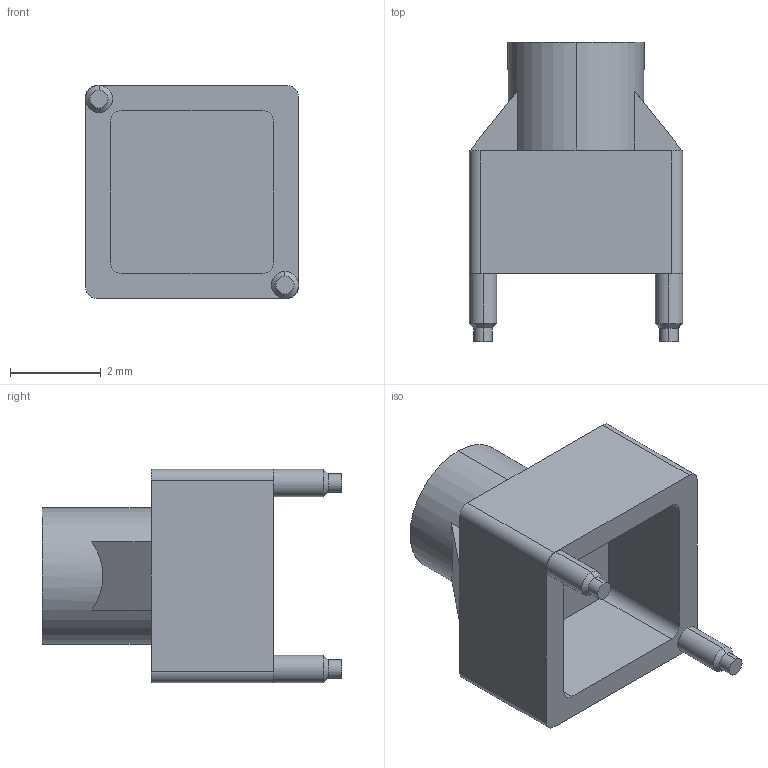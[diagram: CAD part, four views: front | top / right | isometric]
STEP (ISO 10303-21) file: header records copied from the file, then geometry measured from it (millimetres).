
FILE_DESCRIPTION (( 'STEP AP214' ), '1' );
FILE_NAME ('VLP-200-F.STEP', '2017-01-24T18:41:33', ( '' ), ( '' ), 'SwSTEP 2.0', 'SolidWorks 2016', '' );
FILE_SCHEMA (( 'AUTOMOTIVE_DESIGN' ));
Length unit declared in the file: millimetre
Products named in the file (1): VLP-200-F
Bounding box: 4.7 x 6.6 x 4.7 mm (x, y, z)
Volume: 50.4 mm3; surface area: 152.9 mm2
Topology: 1 solids, 1 shells, 45 faces, 108 edges, 66 vertices
Faces by surface type: plane 23, cylinder 18, cone 4
Entity records: 1332 total; most frequent: DIRECTION 238, CARTESIAN_POINT 226, ORIENTED_EDGE 216, EDGE_CURVE 108, AXIS2_PLACEMENT_3D 86, LINE 66, VECTOR 66, VERTEX_POINT 66
